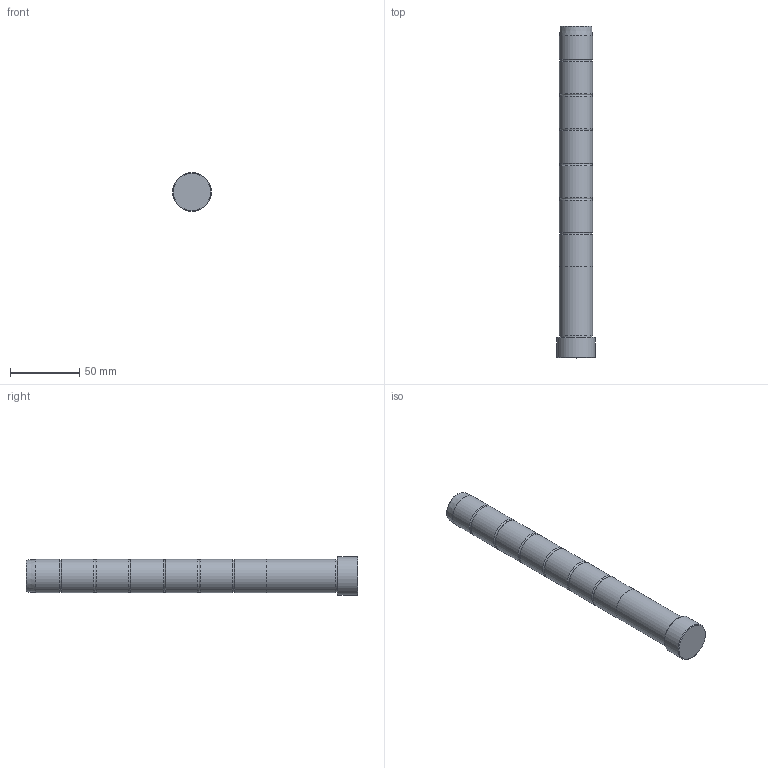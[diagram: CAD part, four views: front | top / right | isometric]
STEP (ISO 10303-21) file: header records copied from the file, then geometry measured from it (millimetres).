
FILE_DESCRIPTION( ( 'STEP AP203' ), '1' );
FILE_NAME( 'D:/Cuma/24 03 2009/D01/D01_24X240.step', '2002-12-31T22:27:47', ( ' ' ), ( ' ' ), 'XStep 1.0', ' ', ' ' );
FILE_SCHEMA( ( 'CONFIG_CONTROL_DESIGN' ) );
Length unit declared in the file: metre
Products named in the file (1): 1
Bounding box: 28 x 240 x 28 mm (x, y, z)
Volume: 110582.4 mm3; surface area: 19568.3 mm2
Topology: 1 solids, 1 shells, 25 faces, 50 edges, 30 vertices
Faces by surface type: cylinder 10, torus 7, plane 5, cone 3
Full cylindrical faces by diameter (mm): 23.5 x1, 24 x7, 24.015 x1, 28 x1
Entity records: 539 total; most frequent: DIRECTION 100, CARTESIAN_POINT 74, AXIS2_PLACEMENT_3D 50, EDGE_LOOP 48, ORIENTED_EDGE 48, FACE_OUTER_BOUND 42, ADVANCED_FACE 25, EDGE_CURVE 24
